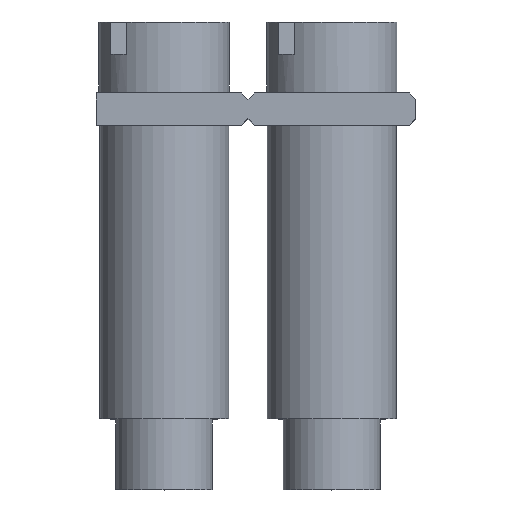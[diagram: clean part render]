
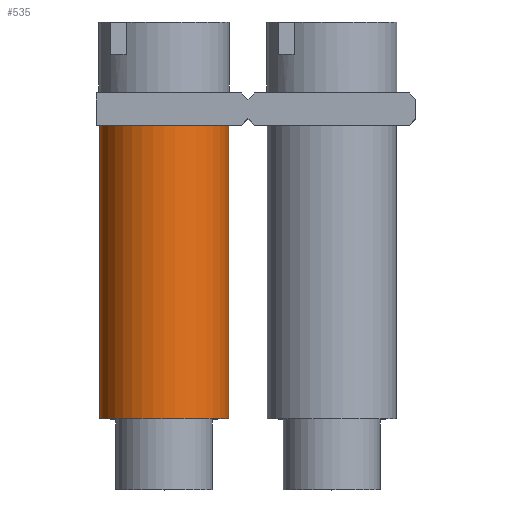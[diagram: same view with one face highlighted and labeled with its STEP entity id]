
A CAD part, top view. The second image highlights one B-rep face of the part: STEP entity #535.
In plain terms, the highlighted cylindrical face has radius 2 mm (diameter 4 mm), a partial arc.
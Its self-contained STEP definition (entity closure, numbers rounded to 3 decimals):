
#483=CARTESIAN_POINT('',(-2.,0.,0.));
#484=VERTEX_POINT('',#483);
#485=CARTESIAN_POINT('',(2.,0.,0.));
#486=VERTEX_POINT('',#485);
#487=CARTESIAN_POINT('',(0.,0.,0.));
#488=DIRECTION('',(-1.,0.,0.));
#489=DIRECTION('',(0.,1.,0.));
#490=AXIS2_PLACEMENT_3D('',#487,#489,#488);
#491=CIRCLE('',#490,2.);
#492=EDGE_CURVE('',#484,#486,#491,.T.);
#504=CARTESIAN_POINT('',(0.,0.,0.));
#505=DIRECTION('',(-1.,0.,0.));
#506=DIRECTION('',(0.,-1.,0.));
#507=AXIS2_PLACEMENT_3D('',#504,#506,#505);
#508=CYLINDRICAL_SURFACE('',#507,2.);
#509=CARTESIAN_POINT('',(-2.,-9.1,0.));
#510=VERTEX_POINT('',#509);
#511=CARTESIAN_POINT('',(2.,-9.1,0.));
#512=VERTEX_POINT('',#511);
#513=CARTESIAN_POINT('',(0.,-9.1,0.));
#514=DIRECTION('',(-1.,0.,0.));
#515=DIRECTION('',(0.,1.,0.));
#516=AXIS2_PLACEMENT_3D('',#513,#515,#514);
#517=CIRCLE('',#516,2.);
#518=EDGE_CURVE('',#510,#512,#517,.T.);
#519=ORIENTED_EDGE('E157',*,*,#518,.T.);
#520=CARTESIAN_POINT('',(2.,-9.1,0.));
#521=DIRECTION('',(0.,1.,0.));
#522=VECTOR('',#521,9.1);
#523=LINE('',#520,#522);
#524=EDGE_CURVE('',#512,#486,#523,.T.);
#525=ORIENTED_EDGE('E158',*,*,#524,.T.);
#526=ORIENTED_EDGE('E158',*,*,#492,.F.);
#527=CARTESIAN_POINT('',(-2.,0.,0.));
#528=DIRECTION('',(0.,-1.,0.));
#529=VECTOR('',#528,9.1);
#530=LINE('',#527,#529);
#531=EDGE_CURVE('',#484,#510,#530,.T.);
#532=ORIENTED_EDGE('E159',*,*,#531,.T.);
#533=EDGE_LOOP('',(#519,#525,#526,#532));
#534=FACE_OUTER_BOUND('',#533,.T.);
#535=ADVANCED_FACE('F19',(#534),#508,.T.);
